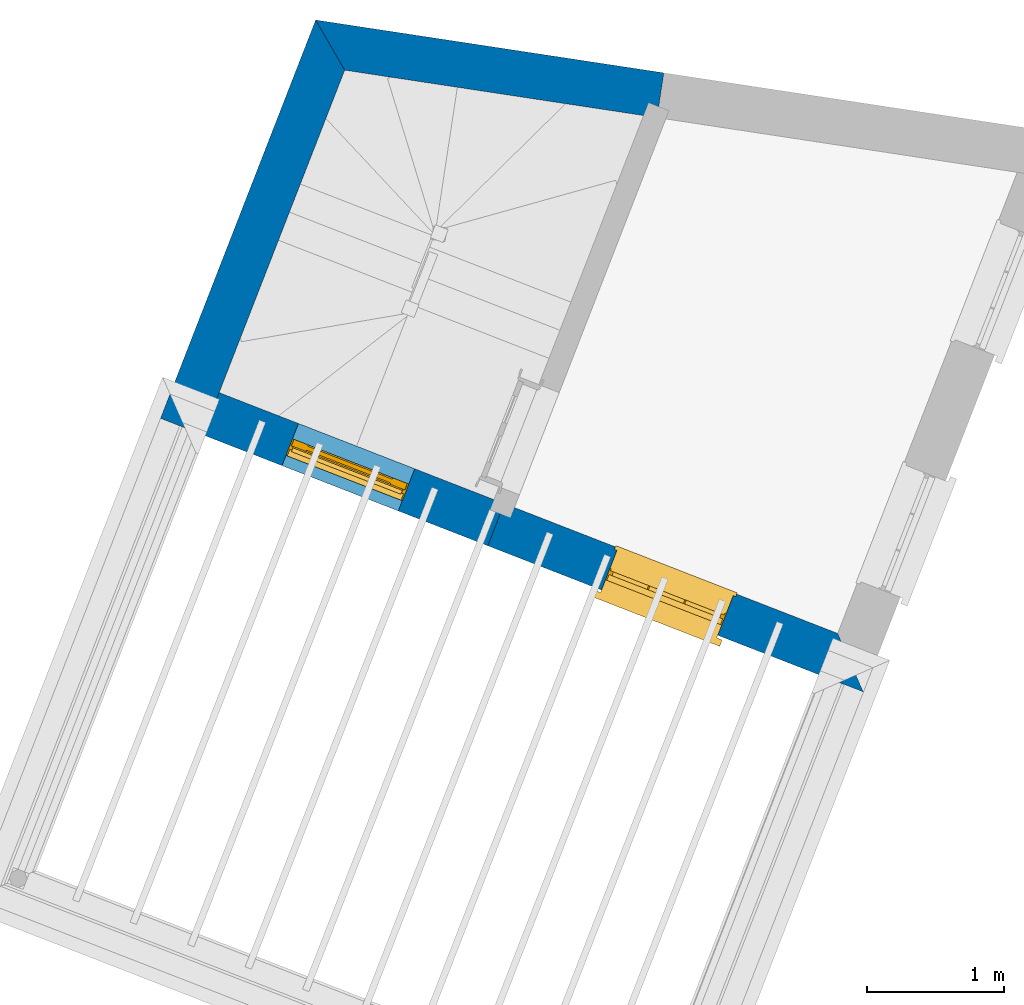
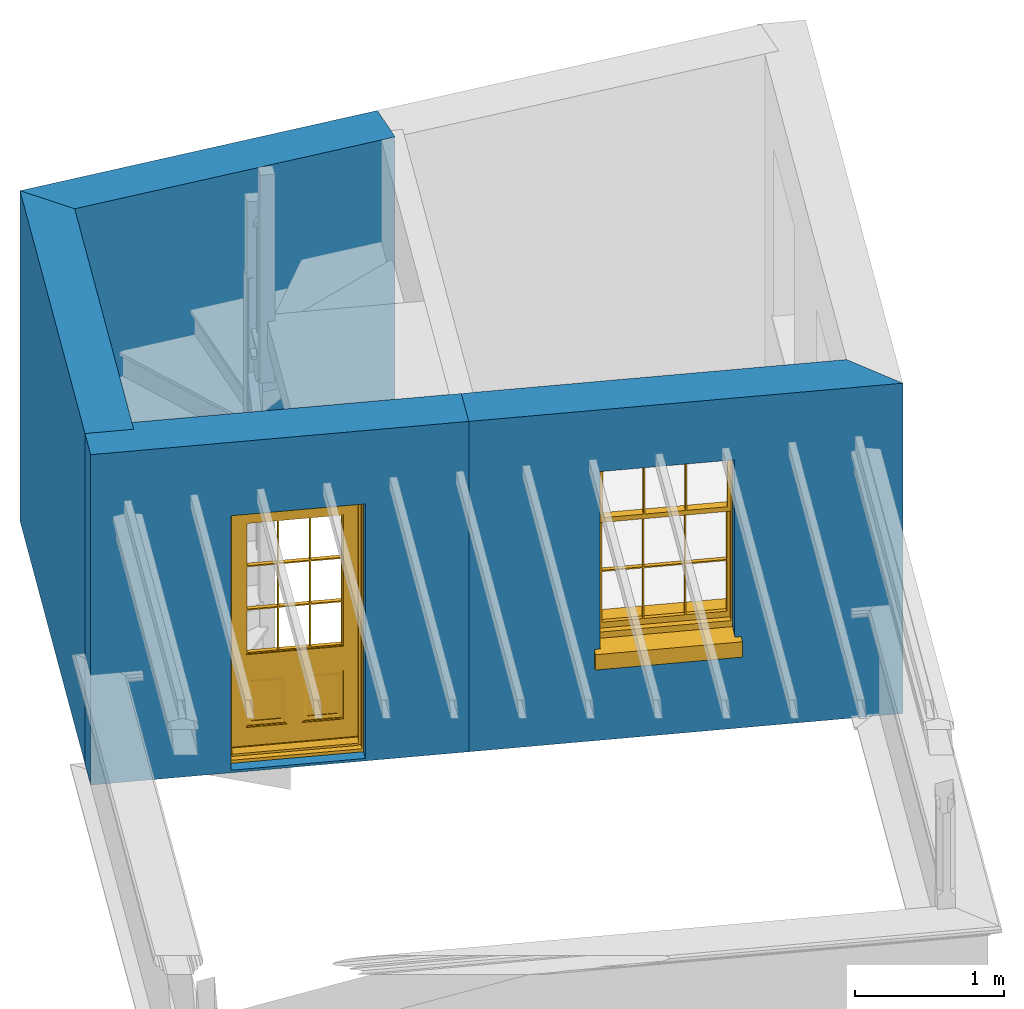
# One storey, part 2 of 5: 4 walls, 1 door, 1 window, 2 openings.
"""IFC4 building model written with IfcOpenShell, lengths in metres."""

from ifc_helpers import new_model, si_unit, frame, origin, origin_with_axes, place, context, subcontext, project, spatial, polyline, outline, extrude, faceted_brep, source, transform, mapped, material, layer, layer_set, layer_usage, type_object, type_shapes, element, fill, save


model = new_model("IFC4")

# Units and contexts
model_context = context("Model", 3, world=origin_with_axes())
body_context = subcontext(model_context, "Body", "Model", "MODEL_VIEW")
ifc_project = project(units=[si_unit("PLANEANGLEUNIT", "RADIAN"), si_unit("MASSUNIT", "GRAM", prefix="KILO"), si_unit("FORCEUNIT", "NEWTON", prefix="KILO"), si_unit("LENGTHUNIT", "METRE"), si_unit("AREAUNIT", "SQUARE_METRE"), si_unit("VOLUMEUNIT", "CUBIC_METRE")], contexts=[model_context, model_context])

# Sites, building, storey
site_1_placement = place(None, origin_with_axes())
site_1 = spatial("IfcSite", under=ifc_project, at=site_1_placement, Name="Tamar")
site_2_placement = place(site_1_placement, origin_with_axes())
site_2 = spatial("IfcSite", under=site_1, at=site_2_placement, Name="Site plot-10", CompositionType="ELEMENT")
building_placement = place(None, origin_with_axes())
building = spatial("IfcBuilding", under=site_2, at=building_placement, Name="Building plot-10", CompositionType="ELEMENT")
storey_placement = place(None, frame((0.0, 0.0, 30.1), z_axis=(0.0, 0.0, 1.0), x_axis=(1.0, 0.0, 0.0)))
storey = spatial("IfcBuildingStorey", under=building, at=storey_placement, Name="plot-10 1", CompositionType="ELEMENT", Elevation=30.1)

# Wall, opening, door
ifc_material_1 = material(Name="Masonry")
ifc_layer_1 = layer(ifc_material_1, 0.33, ventilated=False)
ifc_layer_set_1 = layer_set([ifc_layer_1], Name="exterior_0.08_0.25")
ifc_layer_usage_1 = layer_usage(ifc_layer_set_1, "AXIS2", "POSITIVE", -0.25)
wall_type_1 = type_object("IfcWallType", Name="exterior_0.08_0.25", PredefinedType="SOLIDWALL", material=ifc_layer_set_1)
wall_1_placement = place(storey_placement, frame((231.466263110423, 320.160002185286, 0.0), z_axis=(0.0, 0.0, 1.0), x_axis=(0.931863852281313, -0.362808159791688, 0.0)))
wall_1 = element("IfcWall", 1, at=wall_1_placement, inside=storey, type_object=wall_type_1, material=ifc_layer_usage_1, Name="exterior", context=body_context, shape_type="SweptSolid", body=[
    extrude(outline(polyline([(-0.250000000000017, 0.0800000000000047), (-0.250000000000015, -0.250000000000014), (2.31070094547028, -0.250000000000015), (2.31070094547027, 0.0800000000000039), (-0.250000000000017, 0.0800000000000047)])), origin_with_axes(), (0.0, 0.0, 1.0), 2.7),
])
opening_1_placement = place(wall_1_placement, frame((0.700350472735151, 0.0, 0.0199999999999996)))
opening_1 = element("IfcOpeningElement", 2, at=opening_1_placement, cuts=wall_1, Name="My Opening", ObjectType="Opening", context=body_context, shape_type="SweptSolid", body=[
    extrude(outline(polyline([(0.0, -0.270000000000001), (0.909999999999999, -0.27000000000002), (0.909999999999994, 1.1), (-5.55111512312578e-15, 1.10000000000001), (0.0, -0.270000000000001)])), origin_with_axes(), (0.0, 0.0, 1.0), 2.08),
])
door_type = type_object("IfcDoorType", Name="door_panelled", OperationType="SINGLE_SWING_LEFT", PredefinedType="NOTDEFINED")
shared_shape_1 = source(origin(), body_context, "Body", "Brep", [
    faceted_brep([(0.545, 0.195, 0.265), (0.745, 0.195, 0.265), (0.745, 0.2, 0.265), (0.545, 0.2, 0.265), (0.745, 0.2, 0.58), (0.545, 0.2, 0.58), (0.545, 0.195, 0.58), (0.515, 0.19, 0.235), (0.775, 0.19, 0.235), (0.745, 0.195, 0.58), (0.515, 0.19, 0.61), (0.515, 0.185, 0.235), (0.775, 0.185, 0.235), (0.775, 0.19, 0.61), (0.515, 0.185, 0.61), (0.785, 0.185, 0.225), (0.505, 0.185, 0.225), (0.775, 0.185, 0.61), (0.505, 0.185, 0.62), (0.785, 0.185, 0.62), (0.505, 0.18, 0.225), (0.785, 0.18, 0.225), (0.505, 0.18, 0.62), (0.785, 0.18, 0.62), (0.883, 0.18, 0.075), (0.898, 0.18, 0.075), (0.405, 0.18, 0.62), (0.405, 0.18, 0.225), (0.027, 0.18, 0.075), (0.785, 0.18, 0.82), (0.125, 0.18, 0.82), (0.405, 0.185, 0.62), (0.405, 0.185, 0.225), (0.898, 0.18, 2.068), (0.027, 0.17, 0.075), (0.883, 0.17, 0.075), (0.125, 0.18, 0.225), (0.012, 0.18, 0.075), (0.785, 0.19, 0.82), (0.125, 0.19, 0.82), (0.125, 0.18, 0.62), (0.125, 0.185, 0.62), (0.395, 0.185, 0.61), (0.395, 0.185, 0.235), (0.125, 0.185, 0.225), (0.785, 0.18, 1.895), (0.027, 0.14, 0.045), (0.883, 0.14, 0.045), (0.558333, 0.19, 0.83), (0.351667, 0.19, 0.83), (0.125, 0.18, 1.895), (0.125, 0.19, 1.895), (0.785, 0.19, 1.895), (0.012, 0.18, 2.068), (0.135, 0.185, 0.61), (0.395, 0.19, 0.61), (0.395, 0.19, 0.235), (0.135, 0.185, 0.235), (0.027, 0.14, 0.027), (0.883, 0.14, 0.027), (0.568333, 0.19, 0.83), (0.558333, 0.22, 0.83), (0.351667, 0.22, 0.83), (0.341667, 0.19, 0.83), (0.135, 0.19, 1.185), (0.135, 0.19, 1.53), (0.775, 0.19, 1.53), (0.775, 0.19, 1.185), (0.135, 0.19, 0.61), (0.365, 0.195, 0.58), (0.365, 0.195, 0.265), (0.135, 0.19, 0.235), (0.568333, 0.19, 1.175), (0.558333, 0.19, 1.175), (0.775, 0.19, 0.83), (0.558333, 0.22, 1.175), (0.785, 0.22, 0.82), (0.125, 0.22, 0.82), (0.351667, 0.22, 1.175), (0.351667, 0.19, 1.175), (0.341667, 0.19, 1.175), (0.135, 0.19, 0.83), (0.135, 0.19, 1.175), (0.135, 0.22, 1.185), (0.135, 0.22, 1.53), (0.135, 0.19, 1.54), (0.351667, 0.19, 1.885), (0.558333, 0.19, 1.885), (0.775, 0.22, 1.53), (0.775, 0.22, 1.185), (0.775, 0.19, 1.175), (0.775, 0.19, 1.54), (0.165, 0.195, 0.58), (0.365, 0.2, 0.58), (0.365, 0.2, 0.265), (0.165, 0.195, 0.265), (0.568333, 0.22, 0.83), (0.568333, 0.22, 1.175), (0.568333, 0.19, 1.185), (0.558333, 0.19, 1.185), (0.775, 0.22, 0.83), (0.785, 0.23, 0.82), (0.125, 0.23, 0.82), (0.341667, 0.22, 0.83), (0.341667, 0.22, 1.175), (0.351667, 0.19, 1.185), (0.341667, 0.19, 1.185), (0.135, 0.22, 0.83), (0.341667, 0.22, 1.185), (0.125, 0.22, 1.895), (0.341667, 0.22, 1.53), (0.341667, 0.19, 1.53), (0.135, 0.19, 1.885), (0.341667, 0.19, 1.54), (0.341667, 0.19, 1.885), (0.558333, 0.22, 1.885), (0.351667, 0.22, 1.885), (0.568333, 0.19, 1.885), (0.785, 0.22, 1.895), (0.568333, 0.22, 1.185), (0.568333, 0.19, 1.53), (0.568333, 0.22, 1.53), (0.568333, 0.19, 1.54), (0.775, 0.19, 1.885), (0.165, 0.2, 0.58), (0.165, 0.2, 0.265), (0.775, 0.22, 1.175), (0.558333, 0.19, 1.53), (0.351667, 0.22, 1.185), (0.558333, 0.22, 1.185), (0.505, 0.23, 0.62), (0.405, 0.23, 0.62), (0.125, 0.23, 1.895), (0.785, 0.23, 1.895), (0.351667, 0.19, 1.53), (0.135, 0.22, 1.175), (0.135, 0.22, 1.54), (0.341667, 0.22, 1.54), (0.135, 0.22, 1.885), (0.351667, 0.19, 1.54), (0.558333, 0.22, 1.54), (0.558333, 0.19, 1.54), (0.351667, 0.22, 1.54), (0.775, 0.22, 1.54), (0.568333, 0.22, 1.54), (0.775, 0.22, 1.885), (0.558333, 0.22, 1.53), (0.405, 0.23, 0.225), (0.505, 0.23, 0.225), (0.125, 0.23, 0.62), (0.785, 0.23, 0.62), (0.012, 0.23, 2.068), (0.898, 0.23, 2.068), (0.351667, 0.22, 1.53), (0.341667, 0.22, 1.885), (0.568333, 0.22, 1.885), (0.405, 0.225, 0.225), (0.405, 0.225, 0.62), (0.505, 0.225, 0.62), (0.505, 0.225, 0.225), (0.898, 0.23, 0.027), (0.012, 0.23, 0.027), (0.125, 0.225, 0.62), (0.785, 0.225, 0.62), (0.395, 0.225, 0.235), (0.395, 0.225, 0.61), (0.125, 0.23, 0.225), (0.125, 0.225, 0.225), (0.515, 0.225, 0.61), (0.515, 0.225, 0.235), (0.785, 0.23, 0.225), (0.785, 0.225, 0.225), (0.135, 0.225, 0.61), (0.775, 0.225, 0.61), (0.135, 0.225, 0.235), (0.395, 0.22, 0.235), (0.395, 0.22, 0.61), (0.515, 0.22, 0.61), (0.515, 0.22, 0.235), (0.775, 0.225, 0.235), (0.135, 0.22, 0.61), (0.775, 0.22, 0.61), (0.135, 0.22, 0.235), (0.365, 0.215, 0.265), (0.365, 0.215, 0.58), (0.545, 0.215, 0.58), (0.545, 0.215, 0.265), (0.775, 0.22, 0.235), (0.165, 0.215, 0.58), (0.745, 0.215, 0.58), (0.165, 0.215, 0.265), (0.365, 0.21, 0.58), (0.365, 0.21, 0.265), (0.545, 0.21, 0.58), (0.545, 0.21, 0.265), (0.745, 0.215, 0.265), (0.165, 0.21, 0.58), (0.745, 0.21, 0.58), (0.165, 0.21, 0.265), (0.745, 0.21, 0.265), (0.885, 0.178, 0.025), (0.025, 0.178, 0.025), (0.025, 0.15, 0.025), (0.885, 0.15, 0.025), (0.9, 0.23, 0.025), (0.01, 0.23, 0.025), (0.9, 0.178, 0.025), (0.91, 0.23, 0.0), (0.0, 0.23, 0.0), (0.01, 0.178, 0.025), (0.9, 0.178, 2.07), (0.9, 0.23, 2.07), (0.885, 0.178, 2.055), (0.91, 0.23, 2.08), (0.01, 0.23, 2.07), (0.0, 0.23, 2.08), (0.01, 0.178, 2.07), (0.025, 0.178, 2.055), (0.0, 0.1, 2.08), (0.91, 0.1, 2.08), (0.01, 0.1, 2.07), (0.9, 0.1, 2.07), (0.01, 0.15, 2.07), (0.9, 0.15, 2.07), (0.0, 0.1, 0.0), (0.91, 0.1, 0.0), (0.01, 0.1, 0.025), (0.9, 0.1, 0.025), (0.01, 0.15, 0.025), (0.025, 0.15, 2.055), (0.9, 0.15, 0.025), (0.885, 0.15, 2.055), (0.898, 0.18, 0.027), (0.012, 0.18, 0.027), (0.883, 0.18, 0.027), (0.027, 0.18, 0.027)], [[[0, 1, 2, 3]], [[2, 4, 5, 3]], [[0, 3, 5, 6]], [[1, 0, 7, 8]], [[9, 4, 2, 1]], [[9, 6, 5, 4]], [[0, 6, 10, 7]], [[8, 7, 11, 12]], [[8, 13, 9, 1]], [[13, 10, 6, 9]], [[7, 10, 14, 11]], [[15, 12, 11, 16]], [[12, 17, 13, 8]], [[17, 14, 10, 13]], [[18, 16, 11, 14]], [[15, 19, 17, 12]], [[15, 16, 20, 21]], [[14, 17, 19, 18]], [[16, 18, 22, 20]], [[21, 23, 19, 15]], [[24, 25, 21, 20]], [[23, 22, 18, 19]], [[20, 22, 26, 27]], [[23, 21, 25]], [[28, 24, 20, 27]], [[22, 23, 29]], [[29, 30, 26, 22]], [[27, 26, 31, 32]], [[23, 25, 33, 29]], [[34, 35, 24, 28]], [[28, 27, 36, 37]], [[38, 39, 30, 29]], [[26, 30, 40]], [[26, 40, 41, 31]], [[42, 43, 32, 31]], [[32, 44, 36, 27]], [[33, 45, 29]], [[46, 47, 35, 34]], [[36, 40, 37]], [[39, 38, 48, 49]], [[50, 30, 39, 51]], [[29, 45, 52, 38]], [[53, 37, 40, 30]], [[44, 41, 40, 36]], [[31, 41, 54, 42]], [[43, 42, 55, 56]], [[57, 44, 32, 43]], [[50, 45, 33, 53]], [[47, 46, 58, 59]], [[60, 48, 38]], [[49, 48, 61, 62]], [[49, 63, 39]], [[50, 53, 30]], [[51, 39, 64, 65]], [[45, 50, 51, 52]], [[66, 67, 38, 52]], [[57, 54, 41, 44]], [[42, 54, 68, 55]], [[56, 55, 69, 70]], [[56, 71, 57, 43]], [[60, 72, 73, 48]], [[60, 38, 74]], [[48, 73, 75, 61]], [[76, 77, 62, 61]], [[62, 78, 79, 49]], [[49, 79, 80, 63]], [[63, 81, 39]], [[82, 64, 39]], [[65, 64, 83, 84]], [[85, 51, 65]], [[52, 51, 86, 87]], [[88, 89, 67, 66]], [[90, 38, 67]], [[91, 66, 52]], [[71, 68, 54, 57]], [[55, 68, 92, 69]], [[69, 93, 94, 70]], [[70, 95, 71, 56]], [[96, 97, 72, 60]], [[73, 72, 98, 99]], [[74, 38, 90]], [[100, 96, 60, 74]], [[75, 73, 79, 78]], [[61, 75, 97, 96]], [[101, 102, 77, 76]], [[77, 103, 62]], [[96, 76, 61]], [[103, 104, 78, 62]], [[80, 79, 105, 106]], [[63, 80, 104, 103]], [[81, 63, 103, 107]], [[81, 82, 39]], [[106, 64, 82, 80]], [[106, 108, 83, 64]], [[84, 83, 77, 109]], [[110, 111, 65, 84]], [[112, 51, 85]], [[113, 85, 65, 111]], [[114, 86, 51]], [[115, 87, 86, 116]], [[117, 52, 87]], [[118, 76, 89, 88]], [[119, 98, 67, 89]], [[120, 121, 88, 66]], [[67, 98, 72, 90]], [[91, 122, 120, 66]], [[91, 52, 123]], [[95, 92, 68, 71]], [[69, 92, 124, 93]], [[94, 93, 124, 125]], [[94, 125, 95, 70]], [[72, 97, 126, 90]], [[127, 99, 98, 120]], [[99, 105, 79, 73]], [[74, 90, 126, 100]], [[96, 100, 76]], [[128, 129, 75, 78]], [[97, 75, 129, 119]], [[130, 131, 102, 101]], [[109, 77, 102, 132]], [[133, 101, 76, 118]], [[77, 107, 103]], [[78, 104, 108, 128]], [[111, 106, 105, 134]], [[104, 80, 82, 135]], [[107, 135, 82, 81]], [[110, 108, 106, 111]], [[104, 135, 83, 108]], [[83, 135, 77]], [[136, 84, 109]], [[110, 84, 136, 137]], [[114, 51, 112]], [[85, 136, 138, 112]], [[113, 137, 136, 85]], [[111, 134, 139, 113]], [[86, 114, 113, 139]], [[140, 141, 87, 115]], [[139, 142, 116, 86]], [[109, 118, 115, 116]], [[117, 123, 52]], [[117, 87, 141, 122]], [[126, 89, 76]], [[143, 118, 88]], [[120, 98, 119, 121]], [[119, 89, 126, 97]], [[144, 143, 88, 121]], [[144, 122, 91, 143]], [[127, 120, 122, 141]], [[143, 91, 123, 145]], [[124, 92, 95, 125]], [[146, 129, 99, 127]], [[99, 129, 128, 105]], [[100, 126, 76]], [[121, 119, 129, 146]], [[147, 131, 130, 148]], [[131, 149, 102]], [[130, 101, 150]], [[102, 151, 132]], [[118, 109, 132, 133]], [[101, 133, 152]], [[107, 77, 135]], [[153, 128, 108, 110]], [[134, 105, 128, 153]], [[109, 138, 136]], [[153, 110, 137, 142]], [[154, 114, 112, 138]], [[137, 113, 114, 154]], [[141, 139, 134, 127]], [[141, 140, 142, 139]], [[144, 140, 115, 155]], [[142, 137, 154, 116]], [[155, 115, 118]], [[116, 154, 109]], [[117, 155, 145, 123]], [[122, 144, 155, 117]], [[143, 145, 118]], [[121, 146, 140, 144]], [[146, 127, 134, 153]], [[156, 157, 131, 147]], [[148, 130, 158, 159]], [[148, 160, 161, 147]], [[157, 162, 149, 131]], [[161, 151, 102, 149]], [[101, 152, 160, 150]], [[163, 158, 130, 150]], [[151, 152, 133, 132]], [[154, 138, 109]], [[142, 140, 146, 153]], [[145, 155, 118]], [[157, 156, 164, 165]], [[147, 166, 167, 156]], [[168, 169, 159, 158]], [[170, 148, 159, 171]], [[148, 170, 160]], [[166, 147, 161]], [[172, 162, 157, 165]], [[166, 149, 162, 167]], [[166, 161, 149]], [[150, 160, 170]], [[163, 173, 168, 158]], [[171, 163, 150, 170]], [[174, 164, 156, 167]], [[175, 176, 165, 164]], [[169, 168, 177, 178]], [[171, 159, 169, 179]], [[167, 162, 172, 174]], [[176, 180, 172, 165]], [[179, 173, 163, 171]], [[181, 177, 168, 173]], [[164, 174, 182, 175]], [[183, 184, 176, 175]], [[178, 177, 185, 186]], [[179, 169, 178, 187]], [[174, 172, 180, 182]], [[184, 188, 180, 176]], [[187, 181, 173, 179]], [[189, 185, 177, 181]], [[175, 182, 190, 183]], [[191, 184, 183, 192]], [[185, 193, 194, 186]], [[187, 178, 186, 195]], [[182, 180, 188, 190]], [[191, 196, 188, 184]], [[195, 189, 181, 187]], [[197, 193, 185, 189]], [[183, 190, 198, 192]], [[198, 196, 191, 192]], [[194, 193, 197, 199]], [[195, 186, 194, 199]], [[188, 196, 198, 190]], [[197, 189, 195, 199]], [[200, 201, 202, 203]], [[201, 200, 204, 205]], [[206, 204, 200]], [[204, 207, 208, 205]], [[209, 201, 205]], [[210, 211, 204, 206]], [[206, 200, 212, 210]], [[211, 213, 207, 204]], [[214, 205, 208, 215]], [[216, 217, 201, 209]], [[205, 214, 216, 209]], [[216, 214, 211, 210]], [[210, 212, 217, 216]], [[214, 215, 213, 211]], [[218, 219, 213, 215]], [[219, 218, 220, 221]], [[221, 220, 222, 223]], [[215, 208, 224, 218]], [[225, 224, 208, 207]], [[224, 226, 220, 218]], [[224, 225, 227, 226]], [[219, 225, 207, 213]], [[228, 222, 220, 226]], [[219, 221, 227, 225]], [[226, 227, 203, 202]], [[202, 229, 222, 228]], [[228, 226, 202]], [[227, 221, 223, 230]], [[230, 203, 227]], [[217, 229, 202, 201]], [[231, 223, 222, 229]], [[230, 223, 231, 203]], [[231, 229, 217, 212]], [[212, 200, 203, 231]], [[33, 152, 151, 53]], [[25, 160, 152, 33]], [[161, 37, 53, 151]], [[232, 160, 25]], [[161, 233, 37]], [[160, 232, 234]], [[24, 234, 232, 25]], [[233, 161, 235]], [[37, 233, 235, 28]], [[161, 160, 234, 235]], [[35, 47, 234, 24]], [[28, 235, 46, 34]], [[58, 235, 234, 59]], [[59, 234, 47]], [[58, 46, 235]]]),
])
type_shapes(door_type, [shared_shape_1])
door_placement = place(storey_placement, frame((232.020936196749, 319.654306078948, 0.0199999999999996), z_axis=(0.0, 0.0, 1.0), x_axis=(0.847996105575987, -0.330155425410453, 0.0)))
door = element("IfcDoor", 3, at=door_placement, inside=storey, type_object=door_type, Name="circulation outside door", OverallHeight=2.08, OverallWidth=0.91, context=body_context, shape_type="MappedRepresentation", body=[
    mapped(shared_shape_1, transform((0.0, 0.0, 0.0), scale=1.0)),
])
fill(opening_1, door)

# Wall, opening, window
wall_2_placement = place(storey_placement, frame((233.619521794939, 319.321661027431, 0.0), z_axis=(0.0, 0.0, 1.0), x_axis=(0.931863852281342, -0.362808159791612, 0.0)))
wall_2 = element("IfcWall", 4, at=wall_2_placement, inside=storey, type_object=wall_type_1, material=ifc_layer_usage_1, Name="exterior", context=body_context, shape_type="SweptSolid", body=[
    extrude(outline(polyline([(4.55237209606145e-15, 0.0800000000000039), (-2.09181171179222e-14, -0.250000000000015), (2.93929905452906, -0.250000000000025), (2.60929905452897, 0.0800000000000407), (4.55237209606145e-15, 0.0800000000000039)])), origin_with_axes(), (0.0, 0.0, 1.0), 2.7),
])
opening_2_placement = place(wall_2_placement, frame((0.889649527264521, 0.0, 0.75)))
opening_2 = element("IfcOpeningElement", 5, at=opening_2_placement, cuts=wall_2, Name="My Opening", ObjectType="Opening", context=body_context, shape_type="SweptSolid", body=[
    extrude(outline(polyline([(0.0, -0.270000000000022), (0.909999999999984, -0.269999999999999), (0.909999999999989, 1.10000000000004), (5.44009282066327e-15, 1.10000000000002), (0.0, -0.270000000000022)])), origin_with_axes(), (0.0, 0.0, 1.0), 1.445),
])
window_type = type_object("IfcWindowType", Name="sash_shorter", PartitioningType="DOUBLE_PANEL_HORIZONTAL", PredefinedType="NOTDEFINED")
shared_shape_2 = source(origin(), body_context, "Body", "Brep", [
    faceted_brep([(0.876875, 0.145, 0.999097), (0.876875, 0.145, 1.411875), (0.9, 0.145, 1.435), (0.033125, 0.145, 1.411875), (0.033125, 0.145, 0.999097), (0.01, 0.145, 1.435), (0.033125, 0.115, 1.411875), (0.01, 0.115, 1.435), (0.033125, 0.115, 0.999097), (0.876875, 0.115, 1.411875), (0.876875, 0.115, 0.999097), (0.9, 0.115, 1.435), (0.033125, 0.145, 0.960972), (0.01, 0.145, 0.960972), (0.033125, 0.145, 0.548195), (0.876875, 0.145, 0.960972), (0.876875, 0.145, 0.548195), (0.9, 0.145, 0.960972), (0.876875, 0.145, 0.538195), (0.876875, 0.145, 0.125417), (0.9, 0.145, 0.077167), (0.033125, 0.145, 0.125417), (0.033125, 0.145, 0.538195), (0.01, 0.145, 0.077167), (0.9, 0.115, 0.960972), (0.01, 0.115, 0.960972), (-0.0425, 0.0, 0.01), (-0.0425, -0.05, 0.001667), (0.0, 0.0, 0.01), (0.9525, 0.0, 0.01), (0.91, 0.0, 0.01), (0.9525, -0.05, 0.001667), (-0.02, 0.33, 0.077167), (0.0, 0.33, 0.077167), (-0.02, 0.36, 0.077167), (0.0, 0.19, 0.077167), (0.01, 0.19, 0.077167), (0.91, 0.19, 0.077167), (0.91, 0.33, 0.077167), (0.9, 0.19, 0.077167), (0.93, 0.33, 0.077167), (0.93, 0.36, 0.077167), (0.01, 0.145, 0.999097), (0.01, 0.175, 0.999097), (0.9, 0.145, 0.999097), (0.9, 0.175, 0.999097), (0.876875, 0.175, 0.125417), (0.876875, 0.175, 0.538195), (0.9, 0.175, 0.077167), (0.876875, 0.175, 0.548195), (0.876875, 0.175, 0.960972), (0.033125, 0.175, 0.125417), (0.01, 0.175, 0.077167), (0.033125, 0.175, 0.538195), (0.033125, 0.175, 0.960972), (0.033125, 0.175, 0.548195), (-0.02, 0.33, 0.052167), (-0.02, 0.36, 0.052167), (0.93, 0.36, 0.052167), (0.93, 0.33, 0.052167), (0.91, 0.33, 0.052167), (0.0, 0.33, 0.052167), (0.91, 0.1, 0.026667), (0.0, 0.1, 0.026667), (-0.0425, -0.05, -0.123333), (0.9525, -0.05, -0.123333), (-0.0425, 0.0, -0.123333), (0.9525, 0.0, -0.123333), (0.01, 0.19, 1.435), (0.9, 0.19, 1.435), (0.0, 0.19, 1.445), (0.91, 0.19, 1.445), (0.01, 0.1, 0.077167), (0.9, 0.1, 0.077167), (0.592292, 0.145, 0.125417), (0.592292, 0.175, 0.125417), (0.317708, 0.175, 0.125417), (0.317708, 0.145, 0.125417), (0.592292, 0.145, 0.548195), (0.317708, 0.145, 0.548195), (0.317708, 0.145, 0.538195), (0.592292, 0.145, 0.538195), (0.592292, 0.175, 0.548195), (0.317708, 0.175, 0.548195), (0.602292, 0.175, 0.548195), (0.602292, 0.145, 0.548195), (0.317708, 0.175, 0.538195), (0.307708, 0.175, 0.125417), (0.307708, 0.175, 0.538195), (0.602292, 0.175, 0.538195), (0.602292, 0.175, 0.125417), (0.592292, 0.175, 0.538195), (0.307708, 0.175, 0.548195), (0.317708, 0.175, 0.960972), (0.307708, 0.175, 0.960972), (0.602292, 0.175, 0.960972), (0.592292, 0.175, 0.960972), (0.307708, 0.145, 0.538195), (0.307708, 0.145, 0.125417), (0.307708, 0.145, 0.548195), (0.307708, 0.145, 0.960972), (0.592292, 0.145, 0.960972), (0.317708, 0.145, 0.960972), (0.602292, 0.145, 0.960972), (0.602292, 0.145, 0.538195), (0.602292, 0.145, 0.125417), (0.317708, 0.115, 1.411875), (0.307708, 0.115, 1.411875), (0.307708, 0.115, 0.999097), (0.317708, 0.115, 0.999097), (0.602292, 0.115, 1.411875), (0.592292, 0.115, 1.411875), (0.592292, 0.115, 0.999097), (0.602292, 0.115, 0.999097), (0.317708, 0.145, 0.999097), (0.307708, 0.145, 0.999097), (0.307708, 0.145, 1.411875), (0.317708, 0.145, 1.411875), (0.602292, 0.145, 0.999097), (0.592292, 0.145, 0.999097), (0.592292, 0.145, 1.411875), (0.602292, 0.145, 1.411875), (0.91, 0.1, 1.445), (0.9, 0.1, 1.435), (0.01, 0.1, 1.435), (0.0, 0.1, 1.445), (0.91, 0.0, 0.0), (0.0, 0.0, 0.0), (0.91, 0.33, 0.0), (0.0, 0.33, 0.0)], [[[0, 1, 2]], [[3, 4, 5]], [[6, 7, 8]], [[9, 10, 11]], [[12, 13, 14]], [[15, 16, 17]], [[18, 19, 20]], [[21, 22, 23]], [[24, 15, 17]], [[13, 12, 25]], [[26, 27, 28]], [[29, 30, 31]], [[32, 33, 34]], [[35, 36, 33]], [[37, 38, 39]], [[40, 41, 38]], [[42, 4, 43]], [[44, 45, 0]], [[46, 47, 48]], [[49, 50, 45]], [[51, 52, 53]], [[54, 55, 43]], [[38, 33, 36, 39]], [[41, 34, 33, 38]], [[56, 32, 34, 57]], [[57, 34, 41, 58]], [[58, 41, 40, 59]], [[57, 58, 60, 61]], [[52, 48, 39, 36]], [[62, 63, 28, 30]], [[27, 31, 30, 28]], [[27, 64, 65, 31]], [[66, 67, 65, 64]], [[2, 5, 68, 69]], [[68, 70, 71, 69]], [[20, 23, 72, 73]], [[73, 72, 63, 62]], [[74, 75, 76, 77]], [[78, 79, 80, 81]], [[78, 82, 83, 79]], [[16, 49, 84, 85]], [[86, 76, 87, 88]], [[89, 90, 75, 91]], [[92, 88, 53, 55]], [[82, 91, 86, 83]], [[93, 83, 92, 94]], [[95, 84, 82, 96]], [[89, 84, 49, 47]], [[97, 88, 87, 98]], [[22, 53, 88, 97]], [[81, 91, 75, 74]], [[80, 86, 91, 81]], [[77, 76, 86, 80]], [[99, 92, 55, 14]], [[100, 94, 92, 99]], [[101, 96, 82, 78]], [[79, 83, 93, 102]], [[85, 84, 95, 103]], [[104, 89, 47, 18]], [[105, 90, 89, 104]], [[104, 18, 16, 85]], [[80, 97, 98, 77]], [[104, 81, 74, 105]], [[103, 101, 78, 85]], [[99, 14, 22, 97]], [[102, 100, 99, 79]], [[106, 107, 108, 109]], [[110, 111, 112, 113]], [[114, 115, 116, 117]], [[118, 119, 120, 121]], [[107, 116, 115, 108]], [[111, 120, 119, 112]], [[109, 114, 117, 106]], [[113, 118, 121, 110]], [[85, 78, 81, 104]], [[84, 89, 91, 82]], [[83, 86, 88, 92]], [[79, 99, 97, 80]], [[109, 112, 119, 114]], [[102, 93, 96, 101]], [[106, 117, 120, 111]], [[98, 87, 51, 21]], [[6, 3, 116, 107]], [[110, 121, 1, 9]], [[19, 46, 90, 105]], [[26, 66, 64, 27]], [[29, 31, 65, 67]], [[25, 24, 112, 109]], [[11, 7, 106, 111]], [[75, 48, 52, 76]], [[43, 45, 96, 93]], [[45, 43, 114, 119]], [[5, 2, 120, 117]], [[24, 25, 102, 101]], [[42, 5, 4]], [[2, 44, 0]], [[49, 45, 48, 47]], [[52, 43, 55, 53]], [[14, 13, 23, 22]], [[20, 17, 16, 18]], [[24, 11, 10]], [[25, 8, 7]], [[8, 4, 3, 6]], [[9, 1, 0, 10]], [[15, 50, 49, 16]], [[18, 47, 46, 19]], [[21, 51, 53, 22]], [[14, 55, 54, 12]], [[44, 2, 69, 45]], [[68, 5, 42, 43]], [[36, 35, 70, 68]], [[39, 69, 71, 37]], [[62, 122, 123, 73]], [[63, 72, 124, 125]], [[8, 108, 115, 4]], [[113, 10, 0, 118]], [[94, 100, 12, 54]], [[17, 20, 73, 24]], [[72, 23, 13, 25]], [[52, 36, 68, 43]], [[69, 39, 48, 45]], [[11, 24, 73, 123]], [[7, 124, 72, 25]], [[23, 77, 98]], [[98, 21, 23]], [[105, 74, 20]], [[20, 19, 105]], [[20, 74, 77, 23]], [[113, 112, 24]], [[24, 10, 113]], [[25, 109, 108]], [[108, 8, 25]], [[110, 9, 11]], [[11, 111, 110]], [[7, 6, 107]], [[107, 106, 7]], [[5, 117, 116]], [[116, 3, 5]], [[121, 120, 2]], [[2, 1, 121]], [[11, 123, 124, 7]], [[122, 125, 124, 123]], [[43, 93, 94]], [[94, 54, 43]], [[96, 45, 95]], [[50, 95, 45]], [[15, 103, 95, 50]], [[48, 75, 90]], [[90, 46, 48]], [[87, 76, 52]], [[52, 51, 87]], [[103, 15, 24]], [[24, 101, 103]], [[100, 102, 25]], [[25, 12, 100]], [[115, 114, 43]], [[43, 4, 115]], [[118, 0, 45]], [[45, 119, 118]], [[71, 70, 125, 122]], [[70, 35, 63, 125]], [[122, 62, 37, 71]], [[126, 67, 66, 127]], [[60, 58, 59]], [[38, 60, 59, 40]], [[61, 56, 57]], [[32, 56, 61, 33]], [[61, 60, 128, 129]], [[62, 60, 38, 37]], [[126, 128, 60, 62]], [[33, 61, 63, 35]], [[61, 129, 127, 63]], [[128, 126, 127, 129]], [[28, 127, 66, 26]], [[63, 127, 28]], [[29, 67, 126, 30]], [[30, 126, 62]]]),
])
type_shapes(window_type, [shared_shape_2])
window_placement = place(storey_placement, frame((234.350595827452, 318.747285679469, 0.75), z_axis=(0.0, 0.0, 1.0), x_axis=(0.847996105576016, -0.330155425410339, 0.0)))
window = element("IfcWindow", 6, at=window_placement, inside=storey, type_object=window_type, Name="toilet outside window", OverallHeight=1.445, OverallWidth=0.91, context=body_context, shape_type="MappedRepresentation", body=[
    mapped(shared_shape_2, transform((0.0, 0.0, 0.0), scale=1.0)),
])
fill(opening_2, window)

# Walls
ifc_material_2 = material(Name="Masonry")
ifc_layer_2 = layer(ifc_material_2, 0.33, ventilated=False)
ifc_layer_set_2 = layer_set([ifc_layer_2], Name="party_0.08_0.25")
ifc_layer_usage_2 = layer_usage(ifc_layer_set_2, "AXIS2", "POSITIVE", -0.25)
wall_type_2 = type_object("IfcWallType", Name="party_0.08_0.25", PredefinedType="SOLIDWALL", material=ifc_layer_set_2)
wall_3_placement = place(storey_placement, frame((234.775248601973, 322.290116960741, 0.0), z_axis=(0.0, 0.0, 1.0), x_axis=(-0.988675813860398, 0.150067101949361, 0.0)))
element("IfcWall", 7, at=wall_3_placement, inside=storey, type_object=wall_type_2, material=ifc_layer_usage_2, Name="party", context=body_context, shape_type="SweptSolid", body=[
    extrude(outline(polyline([(-1.1328258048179e-14, 0.0800000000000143), (-3.92598365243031e-15, -0.250000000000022), (2.5682490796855, -0.249999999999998), (2.30406746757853, 0.0800000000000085), (-1.1328258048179e-14, 0.0800000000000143)])), origin_with_axes(), (0.0, 0.0, 1.0), 2.7),
])
wall_4_placement = place(storey_placement, frame((232.433954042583, 322.645492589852, 0.0), z_axis=(0.0, 0.0, 1.0), x_axis=(-0.362808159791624, -0.931863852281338, 0.0)))
element("IfcWall", 8, at=wall_4_placement, inside=storey, type_object=wall_type_2, material=ifc_layer_usage_2, Name="party", context=body_context, shape_type="SweptSolid", body=[
    extrude(outline(polyline([(0.0640440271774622, 0.0799999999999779), (-0.200137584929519, -0.250000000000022), (2.66722482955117, -0.250000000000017), (2.66722482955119, 0.0800000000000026), (0.0640440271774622, 0.0799999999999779)])), origin_with_axes(), (0.0, 0.0, 1.0), 2.7),
])

save(model, "model.ifc")
